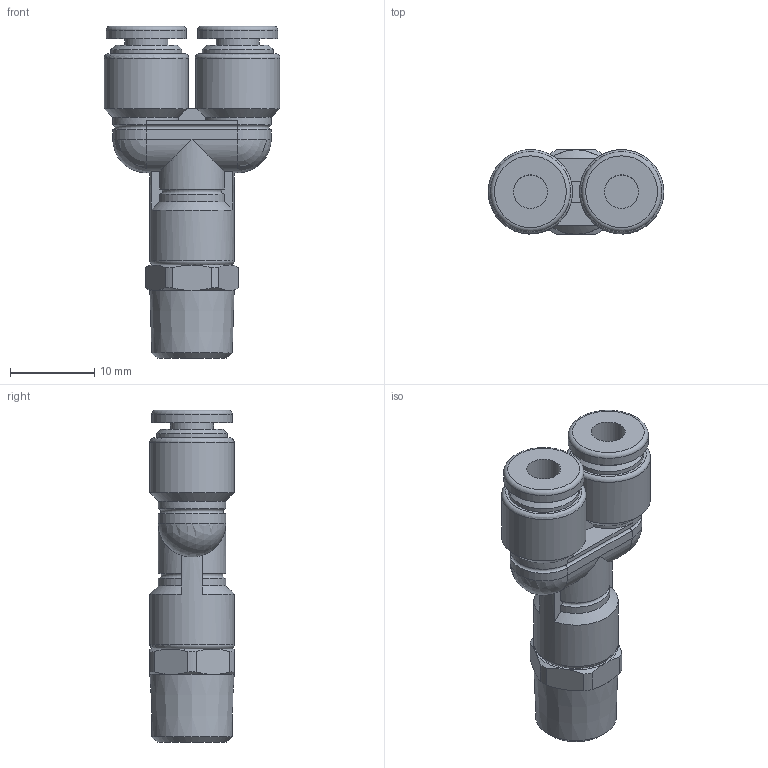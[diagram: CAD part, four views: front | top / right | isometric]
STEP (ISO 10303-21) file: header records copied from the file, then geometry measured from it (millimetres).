
FILE_DESCRIPTION(/* description */ (''),/* implementation_level */ '2;1');
FILE_NAME(/* name */ 'E:\2013年度版　3D-DATA\【02】 TOUCH CONNECTOR FIVE SUS\[04] MALE BRANCH Y\[02] FS4-01MY FS4-01MYW.stp',/* time_stamp */ '2013-08-06T16:58:30+09:00',/* author */ ('takahashi-pc2'),/* organization */ (''),/* preprocessor_version */ 'ST-DEVELOPER v15.2',/* originating_system */ 'Autodesk Inventor 2014',/* authorisation */ '');
FILE_SCHEMA (('AUTOMOTIVE_DESIGN { 1 0 10303 214 3 1 1 }'));
Length unit declared in the file: millimetre
Products named in the file (1): [02] FS4-01MY FS4-01MYW
Bounding box: 20.8 x 10 x 39.3 mm (x, y, z)
Volume: 3574.9 mm3; surface area: 2431.7 mm2
Topology: 1 solids, 1 shells, 92 faces, 206 edges, 122 vertices
Faces by surface type: plane 32, cylinder 29, cone 20, torus 9, sphere 2
Full cylindrical faces by diameter (mm): 4 x2, 5.1 x2, 8.4 x2, 9.5 x2, 10 x3
Entity records: 2437 total; most frequent: CARTESIAN_POINT 533, DIRECTION 414, ORIENTED_EDGE 358, AXIS2_PLACEMENT_3D 180, EDGE_CURVE 179, EDGE_LOOP 122, VERTEX_POINT 119, ADVANCED_FACE 92
